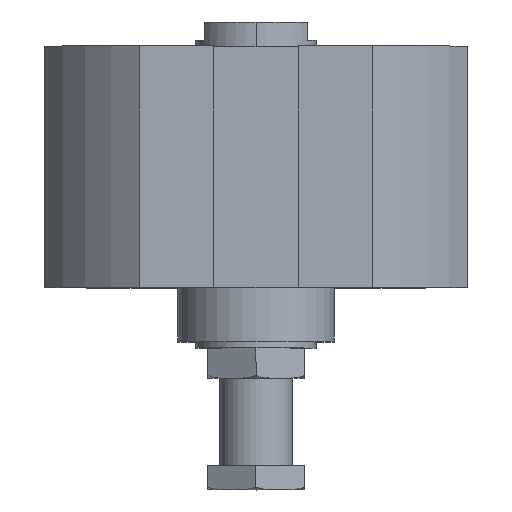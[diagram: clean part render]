
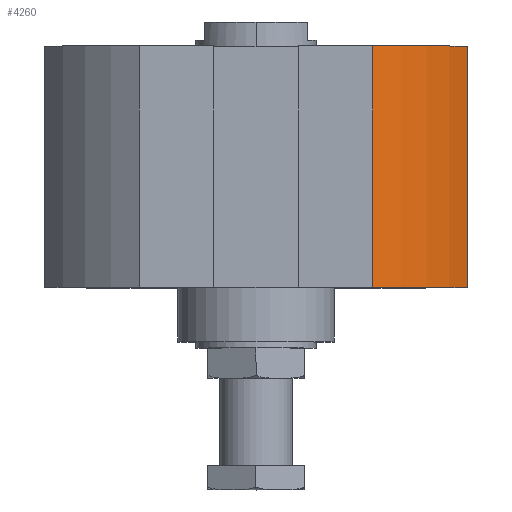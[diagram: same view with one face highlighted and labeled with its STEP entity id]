
A CAD part, top view. The second image highlights one B-rep face of the part: STEP entity #4260.
In plain terms, the highlighted cylindrical face has radius 40 mm (diameter 80 mm), a partial arc.
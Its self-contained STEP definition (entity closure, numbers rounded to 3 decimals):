
#61 = EDGE_CURVE ( 'NONE', #2535, #2987, #4490, .T. ) ;
#162 = EDGE_LOOP ( 'NONE', ( #1538, #3970, #451, #878 ) ) ;
#437 = CARTESIAN_POINT ( 'NONE',  ( 0., 0., 0. ) ) ;
#451 = ORIENTED_EDGE ( 'NONE', *, *, #1146, .T. ) ;
#561 = EDGE_CURVE ( 'NONE', #1575, #1419, #2582, .T. ) ;
#615 = FACE_OUTER_BOUND ( 'NONE', #162, .T. ) ;
#878 = ORIENTED_EDGE ( 'NONE', *, *, #61, .T. ) ;
#1146 = EDGE_CURVE ( 'NONE', #1575, #2535, #2740, .T. ) ;
#1222 = VECTOR ( 'NONE', #1728, 1000. ) ;
#1385 = CARTESIAN_POINT ( 'NONE',  ( 19.365, 0., 35. ) ) ;
#1417 = DIRECTION ( 'NONE',  ( 0., 0., 1. ) ) ;
#1419 = VERTEX_POINT ( 'NONE', #1385 ) ;
#1538 = ORIENTED_EDGE ( 'NONE', *, *, #2603, .F. ) ;
#1575 = VERTEX_POINT ( 'NONE', #2841 ) ;
#1728 = DIRECTION ( 'NONE',  ( 0., 1., 0. ) ) ;
#1981 = AXIS2_PLACEMENT_3D ( 'NONE', #2190, #4003, #2205 ) ;
#1994 = DIRECTION ( 'NONE',  ( 0., 0., 1. ) ) ;
#2190 = CARTESIAN_POINT ( 'NONE',  ( 0., -40., 0. ) ) ;
#2205 = DIRECTION ( 'NONE',  ( 0., 0., 1. ) ) ;
#2501 = CARTESIAN_POINT ( 'NONE',  ( 19.365, -40., 35. ) ) ;
#2535 = VERTEX_POINT ( 'NONE', #2624 ) ;
#2582 = LINE ( 'NONE', #2501, #1222 ) ;
#2587 = VECTOR ( 'NONE', #4689, 1000. ) ;
#2603 = EDGE_CURVE ( 'NONE', #1419, #2987, #3025, .T. ) ;
#2624 = CARTESIAN_POINT ( 'NONE',  ( 35., -40., 19.365 ) ) ;
#2740 = CIRCLE ( 'NONE', #4040, 40. ) ;
#2820 = CARTESIAN_POINT ( 'NONE',  ( 35., -40., 19.365 ) ) ;
#2841 = CARTESIAN_POINT ( 'NONE',  ( 19.365, -40., 35. ) ) ;
#2963 = CARTESIAN_POINT ( 'NONE',  ( 0., -40., 0. ) ) ;
#2987 = VERTEX_POINT ( 'NONE', #3702 ) ;
#3025 = CIRCLE ( 'NONE', #4823, 40. ) ;
#3702 = CARTESIAN_POINT ( 'NONE',  ( 35., 0., 19.365 ) ) ;
#3786 = DIRECTION ( 'NONE',  ( 0., 1., 0. ) ) ;
#3970 = ORIENTED_EDGE ( 'NONE', *, *, #561, .F. ) ;
#4003 = DIRECTION ( 'NONE',  ( 0., 1., 0. ) ) ;
#4040 = AXIS2_PLACEMENT_3D ( 'NONE', #2963, #4434, #1417 ) ;
#4260 = ADVANCED_FACE ( 'NONE', ( #615 ), #4815, .T. ) ;
#4434 = DIRECTION ( 'NONE',  ( 0., 1., 0. ) ) ;
#4490 = LINE ( 'NONE', #2820, #2587 ) ;
#4689 = DIRECTION ( 'NONE',  ( 0., 1., 0. ) ) ;
#4815 = CYLINDRICAL_SURFACE ( 'NONE', #1981, 40. ) ;
#4823 = AXIS2_PLACEMENT_3D ( 'NONE', #437, #3786, #1994 ) ;
